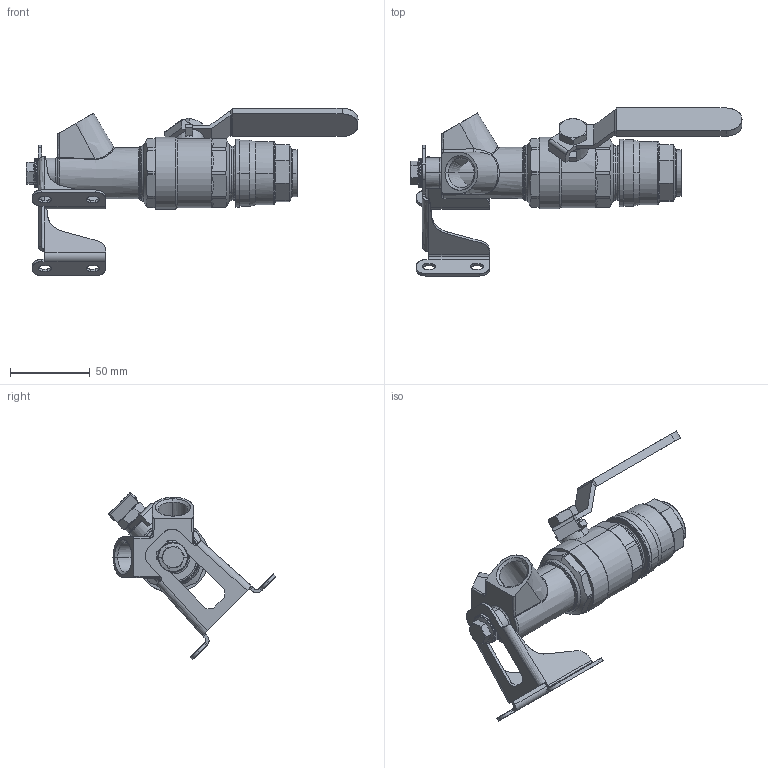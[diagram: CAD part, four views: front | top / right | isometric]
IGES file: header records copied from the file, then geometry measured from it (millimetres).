
Start section: SolidWorks IGES file using analytic representation for surfaces
Global section: file name: K:\Disegni\Disegni Esecutivi\SERIE 90.000\ASSIEMI_90000\90664\9066400002.IGS; native system: SolidWorks 2016; preprocessor: SolidWorks 2016; author: cad07; date: 180530.095247; units: millimetre
Bounding box: 207.79 x 105.11 x 104.83 mm (x, y, z)
Surface area: 55639.8 mm2 (no closed solid volume)
Topology: 0 solids, 0 shells, 531 faces, 6274 edges, 6268 vertices
Faces by surface type: bspline 327, revolution 204
